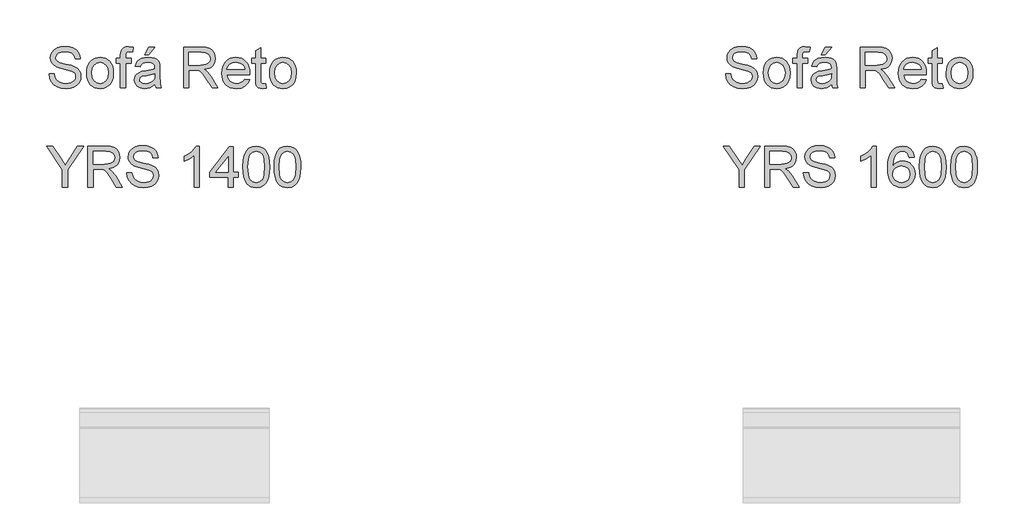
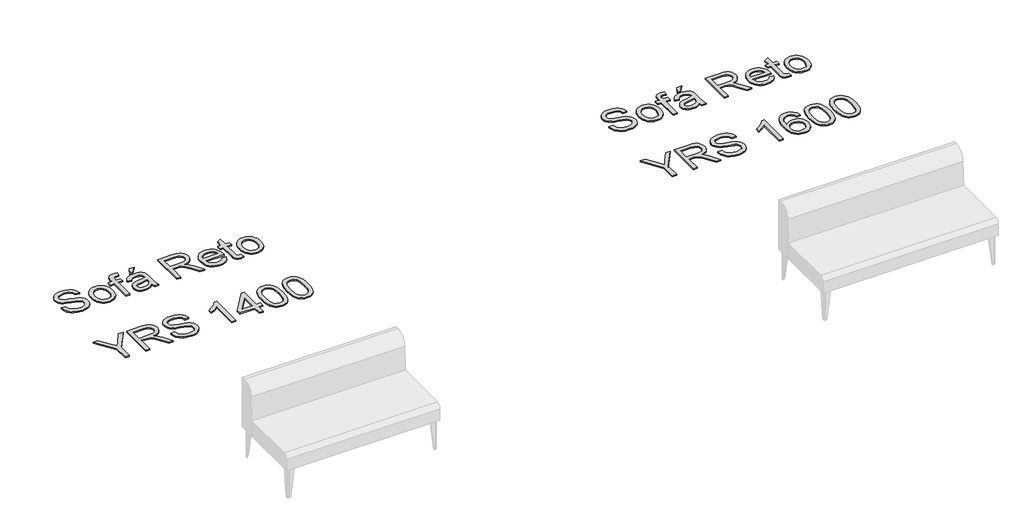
# One storey, part 15 of 26: 2 proxies.
"""IFC4 building model written with IfcOpenShell, lengths in millimetres."""

from ifc_helpers import new_model, si_unit, origin, origin_with_axes, place, context, project, spatial, polyline, outline, extrude, element, save

model = new_model("IFC4")

# Units and contexts
model_context = context("Model", 3, world=origin())
ifc_project = project(units=[si_unit("LENGTHUNIT", "METRE", prefix="MILLI")], contexts=[model_context])

# Site, building, storey
site = spatial("IfcSite", under=ifc_project)
building = spatial("IfcBuilding", under=site)
storey = spatial("IfcBuildingStorey", under=building, Name="Marelli - Linha YOUNG - Planta Baixa", Elevation=0.0)

# Proxies
placement = place(None, origin())
element("IfcBuildingElementProxy", 1, Name="300mm Arial", ObjectType="300mm Arial", at=placement, inside=storey, context=model_context, shape_type="SweptSolid", body=[
    extrude(outline(polyline([(-25.7380244, 188.9537033), (11.9330919, 188.9537033), (16.2557053, 168.0488089), (24.0731977, 151.2457988), (36.2684858, 137.9100765), (53.7244865, 127.4070455), (75.0616422, 120.5920316), (98.9003955, 118.3203602), (119.8880633, 120.0402086), (138.263769, 125.1997535), (153.1537928, 133.3667338), (163.6844149, 144.1088881), (169.9476058, 156.442132), (172.0353362, 169.3823812), (170.4718377, 181.9915366), (165.7813422, 192.8900407), (156.2531986, 202.1882581), (140.1767554, 209.9965534), (85.3255499, 224.3807394), (49.3190996, 233.8996861), (26.2804897, 242.9587802), (7.527705, 255.6323149), (-5.7620321, 270.9913882), (-13.680692, 288.7049063), (-16.3202454, 308.4417753), (-13.0552927, 330.505498), (-3.2604345, 351.0792986), (12.8068116, 368.5169052), (34.8889284, 381.1720458), (61.3948261, 388.8699765), (90.7334152, 391.4359535), (122.5184196, 388.7504149), (150.3302985, 380.6937992), (173.1757704, 367.4316533), (190.0615539, 349.129524), (200.7485259, 326.9278456), (204.9975629, 301.9670522), (167.3264466, 301.9670522), (160.4102651, 324.4446421), (145.9892909, 340.6682381), (123.4565187, 350.4906874), (92.2049432, 353.7648371), (60.2176037, 350.5274756), (38.2734427, 340.8153909), (25.5815139, 326.5231754), (21.3508709, 309.5454213), (24.3491092, 295.0692648), (33.343824, 283.4257997), (54.6074033, 273.0147392), (94.8536936, 262.3829495), (136.3875708, 252.2845888), (161.5139111, 243.473815), (182.9890226, 229.8069989), (197.9710168, 212.9396094), (206.7725936, 193.0555876), (209.7064525, 170.3388744), (206.3311352, 147.1163234), (196.2051832, 125.2733299), (179.742464, 106.47456), (157.3568446, 92.3846796), (130.4370796, 83.5831028), (100.3719235, 80.6492439), (63.4641623, 83.8130291), (33.0863066, 93.3043846), (8.8888684, 109.1600986), (-9.4776403, 131.4169593), (-21.2682582, 158.5298623), (-25.7380244, 188.9537033)])), origin_with_axes(), (0.0, 0.0, 1.0), 10.0),
    extrude(outline(polyline([(252.0864583, 196.0170376), (254.1236049, 224.6796436), (260.2350445, 249.378321), (270.4207773, 270.11307), (284.6808031, 286.8838904), (299.037398, 297.6030521), (314.8839149, 305.2595961), (332.2203539, 309.8535225), (351.046715, 311.3848313), (371.8297485, 309.5201294), (390.6216207, 303.9260239), (407.4223315, 294.6025145), (422.2318811, 281.5496015), (434.3191039, 265.2087431), (442.9528345, 246.0213978), (448.1330728, 223.9875656), (449.8598189, 199.1072464), (446.8063984, 161.049854), (437.6461367, 132.0791469), (422.6457483, 110.3833062), (402.0719478, 94.1505132), (377.6353862, 84.0245612), (351.046715, 80.6492439), (329.9601789, 82.507048), (310.9935628, 88.0804602), (294.1468667, 97.3694806), (279.4200906, 110.3741091), (267.4616265, 126.8736166), (258.9198664, 146.6472739), (253.7948103, 169.6950809), (252.0864583, 196.0170376)]), holes=[polyline([(289.7575746, 196.090614), (294.1169763, 161.9971501), (307.1951812, 137.7077414), (326.8768679, 123.1672055), (351.046715, 118.3203602), (375.1061975, 123.1947967), (394.751096, 137.818106), (407.829301, 162.4294115), (412.1887026, 197.2678364), (407.8017098, 230.3680189), (394.6407314, 254.3263339), (374.9682418, 268.8668697), (351.046715, 273.713715), (326.8768679, 268.8852638), (307.1951812, 254.3999103), (294.1169763, 230.1656838), (289.7575746, 196.090614)])]), origin_with_axes(), (0.0, 0.0, 1.0), 10.0),
    extrude(outline(polyline([(501.6576038, 85.3581335), (501.6576038, 269.0048255), (468.6953771, 269.0048255), (468.6953771, 306.6759418), (501.6576038, 306.6759418), (501.6576038, 328.9695907), (505.6307294, 360.3867131), (513.2090985, 372.913095), (524.9077459, 382.8275148), (541.2784947, 389.2838438), (562.8731678, 391.4359535), (597.2333462, 387.3156751), (591.7151163, 351.9990036), (570.0100785, 353.7648371), (555.6902719, 352.2013387), (546.2816899, 347.5108432), (541.0669626, 338.5529166), (539.3287202, 324.1871247), (539.3287202, 306.6759418), (581.708726, 306.6759418), (581.708726, 269.0048255), (539.3287202, 269.0048255), (539.3287202, 85.3581335), (501.6576038, 85.3581335)])), origin_with_axes(), (0.0, 0.0, 1.0), 10.0),
    extrude(outline(polyline([(755.9376389, 113.6114707), (737.9390123, 98.178821), (719.4069568, 88.0804602), (699.9184081, 82.507048), (679.0503019, 80.6492439), (647.5688002, 85.1190102), (624.3462492, 98.5283089), (610.0264426, 118.8905773), (605.2531737, 144.2192527), (607.0557955, 159.8358434), (612.4636608, 174.0176943), (620.805385, 186.1578001), (631.4095835, 195.6491556), (657.7867226, 208.0099907), (690.3810674, 213.6753734), (728.8983123, 219.6350617), (755.7169097, 226.6248196), (755.9376389, 235.0125291), (753.3440708, 251.8247363), (745.5633666, 262.8244079), (728.1625483, 270.9913882), (703.9191248, 273.713715), (681.4783231, 271.9018962), (665.8065501, 266.4664397), (655.1195781, 256.4140642), (647.6331795, 240.7514882), (609.9620632, 245.4603778), (616.5011657, 266.0617695), (626.2592356, 282.2485773), (640.1467809, 294.6278064), (659.0743096, 303.8064622), (682.2232841, 309.490239), (708.7751671, 311.3848313), (734.2417982, 309.7109682), (754.4293227, 304.689379), (769.6504403, 297.138601), (780.2178506, 287.8771718), (787.2260026, 276.4268447), (791.7693452, 262.3093731), (793.6087552, 229.3471464), (793.6087552, 182.4789802), (795.5217416, 117.0327733), (803.0265343, 85.3581335), (765.355418, 85.3581335), (755.9376389, 113.6114707)]), holes=[polyline([(755.9376389, 188.9537033), (695.1635333, 177.4022087), (662.7531295, 171.2953675), (648.0746379, 161.3625537), (642.92429, 146.8680031), (645.7293902, 135.6659963), (654.1446908, 126.4873405), (667.9862509, 120.3621053), (687.0701294, 118.3203602), (707.3036391, 120.5736375), (725.1827041, 127.3334691), (739.6772547, 137.2938741), (749.7572214, 149.1488714), (754.2269876, 161.3625537), (755.7169097, 178.2851254), (755.9376389, 188.9537033)])]), origin_with_axes(), (0.0, 0.0, 1.0), 10.0),
    extrude(outline(polyline([(680.5954063, 330.2203895), (708.8487435, 386.7270639), (755.9376389, 386.7270639), (708.8487435, 330.2203895), (680.5954063, 330.2203895)])), origin_with_axes(), (0.0, 0.0, 1.0), 10.0),
    extrude(outline(polyline([(967.8376681, 85.3581335), (967.8376681, 386.7270639), (1097.7000124, 386.7270639), (1132.6028167, 384.6945159), (1157.9958714, 378.5968718), (1176.5555181, 367.3396828), (1190.9580982, 349.8284998), (1200.2011333, 328.114265), (1203.282145, 304.2479206), (1198.1777824, 274.5598436), (1182.8646943, 249.9485381), (1171.2649152, 239.9191552), (1156.8830284, 231.9039262), (1119.7729321, 221.9159301), (1141.1836643, 205.8026987), (1171.7178699, 167.0279364), (1221.9705504, 85.3581335), (1178.192593, 85.3581335), (1138.9763723, 147.8244962), (1110.6494587, 189.1744325), (1090.7470427, 208.7089665), (1072.8311896, 215.8826654), (1050.978999, 217.2070405), (1005.5087844, 217.2070405), (1005.5087844, 85.3581335), (967.8376681, 85.3581335)]), holes=[polyline([(1005.5087844, 254.8781568), (1089.8273377, 254.8781568), (1114.0431701, 256.2117291), (1132.832743, 260.2124458), (1146.9778057, 267.1470214), (1157.2601074, 277.2821704), (1163.5232984, 289.5418378), (1165.6110287, 302.849969), (1161.6287061, 321.2256747), (1149.6817383, 336.032925), (1129.1263319, 345.800192), (1099.3186932, 349.0559476), (1005.5087844, 349.0559476), (1005.5087844, 254.8781568)])]), origin_with_axes(), (0.0, 0.0, 1.0), 10.0),
    extrude(outline(polyline([(1419.4496054, 151.282587), (1456.3849577, 146.5736975), (1443.0768266, 118.7434245), (1421.8408384, 97.9396977), (1393.1552398, 84.9718574), (1357.4982774, 80.6492439), (1334.1239752, 82.5139458), (1313.2972557, 88.1080514), (1295.0181191, 97.4315607), (1279.2865652, 110.4844737), (1266.6360231, 126.903507), (1257.5999216, 146.3253771), (1252.1782607, 168.750084), (1250.3710404, 194.1776276), (1252.1966548, 220.4673947), (1257.673498, 243.6393619), (1266.80157, 263.6935292), (1279.5808708, 280.6298965), (1295.2710379, 294.0851805), (1313.1317088, 303.6960976), (1333.1628834, 309.4626479), (1355.3645619, 311.3848313), (1376.8511696, 309.4672464), (1396.2822368, 303.7144917), (1413.6577633, 294.1265672), (1428.9777491, 280.7034729), (1441.4834377, 263.8038938), (1450.4160724, 243.7865147), (1455.7756532, 220.6513357), (1457.5621801, 194.3983568), (1457.3414509, 184.2448138), (1288.0421567, 184.2448138), (1294.5628651, 156.0466588), (1309.7104063, 135.3165084), (1331.5717938, 122.5693973), (1358.2340414, 118.3203602), (1378.2836102, 120.2885289), (1395.1693937, 126.1930349), (1408.8913922, 136.4017603), (1419.4496054, 151.282587)]), holes=[polyline([(1288.0421567, 221.9159301), (1419.8910638, 221.9159301), (1414.7958982, 241.818346), (1404.807902, 256.0553792), (1382.8453469, 269.2991311), (1355.2174091, 273.713715), (1329.8243543, 270.1912449), (1308.8274895, 259.6238346), (1294.2317713, 243.1519182), (1288.0421567, 221.9159301)])]), origin_with_axes(), (0.0, 0.0, 1.0), 10.0),
    extrude(outline(polyline([(1575.2844186, 116.7752559), (1579.9933081, 84.2544875), (1551.8135473, 80.6492439), (1533.7321472, 82.2127424), (1520.2492721, 86.9032378), (1510.7211284, 94.1321191), (1504.5039227, 103.3107748), (1501.0826201, 119.0745183), (1499.942186, 146.0586627), (1499.942186, 269.0048255), (1471.6888487, 269.0048255), (1471.6888487, 306.6759418), (1499.942186, 306.6759418), (1499.942186, 360.4602895), (1537.6133023, 382.6067856), (1537.6133023, 306.6759418), (1575.2844186, 306.6759418), (1575.2844186, 269.0048255), (1537.6133023, 269.0048255), (1537.6133023, 147.1623087), (1539.599865, 127.7381393), (1546.0378, 120.858746), (1558.8768816, 118.3203602), (1575.2844186, 116.7752559)])), origin_with_axes(), (0.0, 0.0, 1.0), 10.0),
    extrude(outline(polyline([(1603.5377558, 196.0170376), (1605.5749023, 224.6796436), (1611.686342, 249.378321), (1621.8720747, 270.11307), (1636.1321006, 286.8838904), (1650.4886954, 297.6030521), (1666.3352124, 305.2595961), (1683.6716514, 309.8535225), (1702.4980125, 311.3848313), (1723.281046, 309.5201294), (1742.0729181, 303.9260239), (1758.873629, 294.6025145), (1773.6831786, 281.5496015), (1785.7704014, 265.2087431), (1794.4041319, 246.0213978), (1799.5843703, 223.9875656), (1801.3111164, 199.1072464), (1798.2576958, 161.049854), (1789.0974342, 132.0791469), (1774.0970458, 110.3833062), (1753.5232452, 94.1505132), (1729.0866837, 84.0245612), (1702.4980125, 80.6492439), (1681.4114764, 82.507048), (1662.4448603, 88.0804602), (1645.5981642, 97.3694806), (1630.871388, 110.3741091), (1618.9129239, 126.8736166), (1610.3711639, 146.6472739), (1605.2461078, 169.6950809), (1603.5377558, 196.0170376)]), holes=[polyline([(1641.2088721, 196.090614), (1645.5682737, 161.9971501), (1658.6464787, 137.7077414), (1678.3281654, 123.1672055), (1702.4980125, 118.3203602), (1726.557495, 123.1947967), (1746.2023935, 137.818106), (1759.2805985, 162.4294115), (1763.6400001, 197.2678364), (1759.2530073, 230.3680189), (1746.0920289, 254.3263339), (1726.4195392, 268.8668697), (1702.4980125, 273.713715), (1678.3281654, 268.8852638), (1658.6464787, 254.3999103), (1645.5682737, 230.1656838), (1641.2088721, 196.090614)])]), origin_with_axes(), (0.0, 0.0, 1.0), 10.0),
    extrude(outline(polyline([(73.1486559, -646.4907736), (73.1486559, -518.8357213), (-44.5735826, -345.1218432), (-0.1334376, -345.1218432), (62.7008072, -437.9016823), (94.8536936, -485.2113069), (127.0801564, -434.517168), (184.1018656, -345.1218432), (228.5420106, -345.1218432), (110.8197722, -518.8357213), (110.8197722, -646.4907736), (73.1486559, -646.4907736)])), origin_with_axes(), (0.0, 0.0, 1.0), 10.0),
    extrude(outline(polyline([(261.5042374, -646.4907736), (261.5042374, -345.1218432), (391.3665817, -345.1218432), (426.269386, -347.1543912), (451.6624407, -353.2520352), (470.2220874, -364.5092243), (484.6246675, -382.0204073), (493.8677026, -403.734642), (496.9487143, -427.6009865), (491.8443516, -457.2890635), (476.5312636, -481.900369), (464.9314844, -491.9297519), (450.5495977, -499.9449808), (413.4395014, -509.932977), (434.8502335, -526.0462084), (465.3844391, -564.8209707), (515.6371197, -646.4907736), (471.8591622, -646.4907736), (432.6429415, -584.0244108), (404.3160279, -542.6744746), (384.413612, -523.1399406), (366.4977588, -515.9662417), (344.6455683, -514.6418665), (299.1753537, -514.6418665), (299.1753537, -646.4907736), (261.5042374, -646.4907736)]), holes=[polyline([(299.1753537, -476.9707502), (383.493907, -476.9707502), (407.7097393, -475.637178), (426.4993122, -471.6364613), (440.6443749, -464.7018857), (450.9266767, -454.5667367), (457.1898677, -442.3070692), (459.277598, -428.9989381), (455.2952754, -410.6232324), (443.3483076, -395.8159821), (422.7929011, -386.0487151), (392.9852625, -382.7929595), (299.1753537, -382.7929595), (299.1753537, -476.9707502)])]), origin_with_axes(), (0.0, 0.0, 1.0), 10.0),
    extrude(outline(polyline([(548.7464992, -542.8952038), (586.4176155, -542.8952038), (590.740229, -563.8000981), (598.5577214, -580.6031083), (610.7530095, -593.9388306), (628.2090102, -604.4418616), (649.5461659, -611.2568755), (673.3849192, -613.5285468), (694.372587, -611.8086985), (712.7482927, -606.6491535), (727.6383164, -598.4821732), (738.1689385, -587.740019), (744.4321295, -575.4067751), (746.5198598, -562.4665259), (744.9563614, -549.8573705), (740.2658659, -538.9588664), (730.7377222, -529.660649), (714.6612791, -521.8523536), (659.8100736, -507.4681676), (623.8036233, -497.949221), (600.7650133, -488.8901269), (582.0122286, -476.2165921), (568.7224916, -460.8575188), (560.8038316, -443.1440008), (558.1642783, -423.4071317), (561.429231, -401.3434091), (571.2240891, -380.7696085), (587.2913353, -363.3320019), (609.373452, -350.6768613), (635.8793498, -342.9789305), (665.2179389, -340.4129536), (697.0029433, -343.0984922), (724.8148221, -351.1551079), (747.660294, -364.4172538), (764.5460776, -382.7193831), (775.2330496, -404.9210615), (779.4820866, -429.8818548), (741.8109703, -429.8818548), (734.8947888, -407.4042649), (720.4738146, -391.180669), (697.9410424, -381.3582197), (666.6894669, -378.0840699), (634.7021274, -381.3214315), (612.7579664, -391.0335162), (600.0660376, -405.3257317), (595.8353946, -422.3034857), (598.8336329, -436.7796423), (607.8283477, -448.4231074), (629.091927, -458.8341679), (669.3382172, -469.4659575), (710.8720945, -479.5643183), (735.9984348, -488.3750921), (757.4735462, -502.0419082), (772.4555405, -518.9092977), (781.2571172, -538.7933195), (784.1909761, -561.5100327), (780.8156588, -584.7325837), (770.6897069, -606.5755771), (754.2269876, -625.3743471), (731.8413682, -639.4642275), (704.9216032, -648.2658042), (674.8564472, -651.1996631), (637.948686, -648.035878), (607.5708303, -638.5445225), (583.373392, -622.6888085), (565.0068834, -600.4319478), (553.2162655, -573.3190448), (548.7464992, -542.8952038)])), origin_with_axes(), (0.0, 0.0, 1.0), 10.0),
    extrude(outline(polyline([(1085.5599066, -646.4907736), (1047.8887903, -646.4907736), (1047.8887903, -411.6349079), (1012.2042368, -437.0555537), (972.5465577, -456.0750529), (972.5465577, -420.4640758), (1002.1334671, -404.3692385), (1027.7656451, -385.2209806), (1047.9715637, -364.8587122), (1061.2796949, -345.1218432), (1085.5599066, -345.1218432), (1085.5599066, -646.4907736)])), origin_with_axes(), (0.0, 0.0, 1.0), 10.0),
    extrude(outline(polyline([(1297.4599358, -646.4907736), (1297.4599358, -575.8574305), (1160.9021392, -575.8574305), (1160.9021392, -538.1863142), (1306.8777149, -349.8307327), (1335.1310521, -349.8307327), (1335.1310521, -538.1863142), (1372.8021684, -538.1863142), (1372.8021684, -575.8574305), (1335.1310521, -575.8574305), (1335.1310521, -646.4907736), (1297.4599358, -646.4907736)]), holes=[polyline([(1297.4599358, -538.1863142), (1297.4599358, -421.7884509), (1207.2552706, -538.1863142), (1297.4599358, -538.1863142)])]), origin_with_axes(), (0.0, 0.0, 1.0), 10.0),
    extrude(outline(polyline([(1405.7643952, -498.2343295), (1408.5327072, -449.9958029), (1416.8376432, -411.5245433), (1430.5964299, -382.2319394), (1449.7262936, -361.5293801), (1474.3651902, -349.2237274), (1504.6510755, -345.1218432), (1527.8644294, -347.5498643), (1548.6497621, -354.8339278), (1566.0321864, -366.6889251), (1579.0368149, -382.8297477), (1588.8592642, -403.1184397), (1596.6951507, -427.4170455), (1601.8271045, -458.2731478), (1603.5377558, -498.2343295), (1600.7970349, -546.1969447), (1592.5748723, -584.5762338), (1578.8988592, -613.8964288), (1559.7965866, -634.6817616), (1535.1025076, -647.0701877), (1504.6510755, -651.1996631), (1483.902531, -649.4062384), (1465.5084312, -644.0259642), (1449.4687762, -635.0588406), (1435.783566, -622.5048675), (1422.6501788, -599.8111469), (1413.2691879, -571.5348171), (1407.6405934, -537.675878), (1405.7643952, -498.2343295)]), holes=[polyline([(1443.4355115, -498.1607531), (1447.8500954, -557.4173455), (1453.3683254, -577.6853442), (1461.0938473, -591.7131445), (1480.8123222, -608.0746963), (1504.6510755, -613.5285468), (1528.4898288, -608.0563022), (1548.2083037, -591.6395681), (1555.9338256, -577.5887752), (1561.4520555, -557.325375), (1565.8666395, -498.1607531), (1561.5992083, -440.237733), (1556.2649194, -420.0364129), (1548.7969149, -405.6752196), (1529.1152282, -388.5135245), (1504.2096171, -382.7929595), (1480.6283812, -387.8329428), (1461.6824585, -402.9528928), (1453.6994192, -418.5878776), (1447.9972482, -439.6675159), (1443.4355115, -498.1607531)])]), origin_with_axes(), (0.0, 0.0, 1.0), 10.0),
    extrude(outline(polyline([(1636.4999826, -498.2343295), (1639.2682946, -449.9958029), (1647.5732306, -411.5245433), (1661.3320172, -382.2319394), (1680.461881, -361.5293801), (1705.1007776, -349.2237274), (1735.3866629, -345.1218432), (1758.6000168, -347.5498643), (1779.3853495, -354.8339278), (1796.7677738, -366.6889251), (1809.7724023, -382.8297477), (1819.5948516, -403.1184397), (1827.4307381, -427.4170455), (1832.5626919, -458.2731478), (1834.2733432, -498.2343295), (1831.5326223, -546.1969447), (1823.3104597, -584.5762338), (1809.6344465, -613.8964288), (1790.5321739, -634.6817616), (1765.838095, -647.0701877), (1735.3866629, -651.1996631), (1714.6381183, -649.4062384), (1696.2440186, -644.0259642), (1680.2043636, -635.0588406), (1666.5191534, -622.5048675), (1653.3857661, -599.8111469), (1644.0047753, -571.5348171), (1638.3761807, -537.675878), (1636.4999826, -498.2343295)]), holes=[polyline([(1674.1710989, -498.1607531), (1678.5856828, -557.4173455), (1684.1039127, -577.6853442), (1691.8294346, -591.7131445), (1711.5479096, -608.0746963), (1735.3866629, -613.5285468), (1759.2254162, -608.0563022), (1778.9438911, -591.6395681), (1786.669413, -577.5887752), (1792.1876429, -557.325375), (1796.6022269, -498.1607531), (1792.3347957, -440.237733), (1787.0005068, -420.0364129), (1779.5325023, -405.6752196), (1759.8508155, -388.5135245), (1734.9452045, -382.7929595), (1711.3639686, -387.8329428), (1692.4180458, -402.9528928), (1684.4350065, -418.5878776), (1678.7328356, -439.6675159), (1674.1710989, -498.1607531)])]), origin_with_axes(), (0.0, 0.0, 1.0), 10.0),
])
element("IfcBuildingElementProxy", 2, Name="300mm Arial", ObjectType="300mm Arial", at=placement, inside=storey, context=model_context, shape_type="SweptSolid", body=[
    extrude(outline(polyline([(4974.2619756, 188.9537033), (5011.9330919, 188.9537033), (5016.2557053, 168.0488089), (5024.0731977, 151.2457988), (5036.2684858, 137.9100765), (5053.7244865, 127.4070455), (5075.0616422, 120.5920316), (5098.9003955, 118.3203602), (5119.8880634, 120.0402086), (5138.263769, 125.1997535), (5153.1537928, 133.3667338), (5163.6844149, 144.1088881), (5169.9476058, 156.442132), (5172.0353362, 169.3823812), (5170.4718377, 181.9915366), (5165.7813422, 192.8900407), (5156.2531986, 202.1882581), (5140.1767554, 209.9965534), (5085.3255499, 224.3807394), (5049.3190996, 233.8996861), (5026.2804897, 242.9587802), (5007.527705, 255.6323149), (4994.2379679, 270.9913882), (4986.319308, 288.7049063), (4983.6797546, 308.4417753), (4986.9447073, 330.505498), (4996.7395655, 351.0792986), (5012.8068116, 368.5169052), (5034.8889284, 381.1720458), (5061.3948261, 388.8699765), (5090.7334152, 391.4359535), (5122.5184196, 388.7504149), (5150.3302985, 380.6937992), (5173.1757704, 367.4316533), (5190.0615539, 349.129524), (5200.7485259, 326.9278456), (5204.9975629, 301.9670522), (5167.3264466, 301.9670522), (5160.4102651, 324.4446421), (5145.9892909, 340.6682381), (5123.4565187, 350.4906874), (5092.2049432, 353.7648371), (5060.2176037, 350.5274756), (5038.2734427, 340.8153909), (5025.5815139, 326.5231754), (5021.3508709, 309.5454213), (5024.3491092, 295.0692648), (5033.343824, 283.4257997), (5054.6074033, 273.0147392), (5094.8536936, 262.3829495), (5136.3875708, 252.2845888), (5161.5139111, 243.473815), (5182.9890226, 229.8069989), (5197.9710168, 212.9396094), (5206.7725936, 193.0555876), (5209.7064525, 170.3388744), (5206.3311352, 147.1163234), (5196.2051832, 125.2733299), (5179.742464, 106.47456), (5157.3568446, 92.3846796), (5130.4370796, 83.5831028), (5100.3719235, 80.6492439), (5063.4641623, 83.8130291), (5033.0863066, 93.3043846), (5008.8888684, 109.1600986), (4990.5223597, 131.4169593), (4978.7317418, 158.5298623), (4974.2619756, 188.9537033)])), origin_with_axes(), (0.0, 0.0, 1.0), 10.0),
    extrude(outline(polyline([(5252.0864583, 196.0170376), (5254.1236049, 224.6796436), (5260.2350445, 249.378321), (5270.4207773, 270.11307), (5284.6808031, 286.8838904), (5299.037398, 297.6030521), (5314.8839149, 305.2595961), (5332.2203539, 309.8535225), (5351.046715, 311.3848313), (5371.8297485, 309.5201294), (5390.6216207, 303.9260239), (5407.4223315, 294.6025145), (5422.2318811, 281.5496015), (5434.3191039, 265.2087431), (5442.9528345, 246.0213978), (5448.1330728, 223.9875656), (5449.8598189, 199.1072464), (5446.8063984, 161.049854), (5437.6461367, 132.0791469), (5422.6457483, 110.3833062), (5402.0719478, 94.1505132), (5377.6353862, 84.0245612), (5351.046715, 80.6492439), (5329.9601789, 82.507048), (5310.9935628, 88.0804602), (5294.1468667, 97.3694806), (5279.4200906, 110.3741091), (5267.4616265, 126.8736166), (5258.9198664, 146.6472739), (5253.7948103, 169.6950809), (5252.0864583, 196.0170376)]), holes=[polyline([(5289.7575746, 196.090614), (5294.1169763, 161.9971501), (5307.1951812, 137.7077414), (5326.8768679, 123.1672055), (5351.046715, 118.3203602), (5375.1061975, 123.1947967), (5394.751096, 137.818106), (5407.829301, 162.4294115), (5412.1887026, 197.2678364), (5407.8017098, 230.3680189), (5394.6407314, 254.3263339), (5374.9682418, 268.8668697), (5351.046715, 273.713715), (5326.8768679, 268.8852638), (5307.1951812, 254.3999103), (5294.1169763, 230.1656838), (5289.7575746, 196.090614)])]), origin_with_axes(), (0.0, 0.0, 1.0), 10.0),
    extrude(outline(polyline([(5501.6576038, 85.3581335), (5501.6576038, 269.0048255), (5468.6953771, 269.0048255), (5468.6953771, 306.6759418), (5501.6576038, 306.6759418), (5501.6576038, 328.9695907), (5505.6307294, 360.3867131), (5513.2090985, 372.913095), (5524.9077459, 382.8275148), (5541.2784947, 389.2838438), (5562.8731678, 391.4359535), (5597.2333462, 387.3156751), (5591.7151163, 351.9990036), (5570.0100785, 353.7648371), (5555.6902719, 352.2013387), (5546.2816899, 347.5108432), (5541.0669626, 338.5529166), (5539.3287202, 324.1871247), (5539.3287202, 306.6759418), (5581.708726, 306.6759418), (5581.708726, 269.0048255), (5539.3287202, 269.0048255), (5539.3287202, 85.3581335), (5501.6576038, 85.3581335)])), origin_with_axes(), (0.0, 0.0, 1.0), 10.0),
    extrude(outline(polyline([(5755.9376389, 113.6114707), (5737.9390123, 98.178821), (5719.4069568, 88.0804602), (5699.9184081, 82.507048), (5679.0503019, 80.6492439), (5647.5688002, 85.1190102), (5624.3462492, 98.5283089), (5610.0264426, 118.8905773), (5605.2531737, 144.2192527), (5607.0557955, 159.8358434), (5612.4636608, 174.0176943), (5620.805385, 186.1578001), (5631.4095835, 195.6491556), (5657.7867226, 208.0099907), (5690.3810674, 213.6753734), (5728.8983123, 219.6350617), (5755.7169097, 226.6248196), (5755.9376389, 235.0125291), (5753.3440708, 251.8247363), (5745.5633666, 262.8244079), (5728.1625483, 270.9913882), (5703.9191248, 273.713715), (5681.4783231, 271.9018962), (5665.8065501, 266.4664397), (5655.1195781, 256.4140642), (5647.6331795, 240.7514882), (5609.9620632, 245.4603778), (5616.5011657, 266.0617695), (5626.2592356, 282.2485773), (5640.1467809, 294.6278064), (5659.0743096, 303.8064622), (5682.2232841, 309.490239), (5708.7751671, 311.3848313), (5734.2417982, 309.7109682), (5754.4293227, 304.689379), (5769.6504403, 297.138601), (5780.2178506, 287.8771718), (5787.2260026, 276.4268447), (5791.7693452, 262.3093731), (5793.6087552, 229.3471464), (5793.6087552, 182.4789802), (5795.5217416, 117.0327733), (5803.0265343, 85.3581335), (5765.355418, 85.3581335), (5755.9376389, 113.6114707)]), holes=[polyline([(5755.9376389, 188.9537033), (5695.1635333, 177.4022087), (5662.7531295, 171.2953675), (5648.0746379, 161.3625537), (5642.92429, 146.8680031), (5645.7293902, 135.6659963), (5654.1446908, 126.4873405), (5667.9862509, 120.3621053), (5687.0701294, 118.3203602), (5707.3036391, 120.5736375), (5725.1827041, 127.3334691), (5739.6772547, 137.2938741), (5749.7572214, 149.1488714), (5754.2269876, 161.3625537), (5755.7169097, 178.2851254), (5755.9376389, 188.9537033)])]), origin_with_axes(), (0.0, 0.0, 1.0), 10.0),
    extrude(outline(polyline([(5680.5954063, 330.2203895), (5708.8487435, 386.7270639), (5755.9376389, 386.7270639), (5708.8487435, 330.2203895), (5680.5954063, 330.2203895)])), origin_with_axes(), (0.0, 0.0, 1.0), 10.0),
    extrude(outline(polyline([(5967.8376681, 85.3581335), (5967.8376681, 386.7270639), (6097.7000124, 386.7270639), (6132.6028167, 384.6945159), (6157.9958714, 378.5968718), (6176.5555181, 367.3396828), (6190.9580982, 349.8284998), (6200.2011333, 328.114265), (6203.282145, 304.2479206), (6198.1777824, 274.5598436), (6182.8646943, 249.9485381), (6171.2649152, 239.9191552), (6156.8830284, 231.9039262), (6119.7729321, 221.9159301), (6141.1836643, 205.8026987), (6171.7178699, 167.0279364), (6221.9705504, 85.3581335), (6178.192593, 85.3581335), (6138.9763723, 147.8244962), (6110.6494587, 189.1744325), (6090.7470427, 208.7089665), (6072.8311896, 215.8826654), (6050.978999, 217.2070405), (6005.5087844, 217.2070405), (6005.5087844, 85.3581335), (5967.8376681, 85.3581335)]), holes=[polyline([(6005.5087844, 254.8781568), (6089.8273377, 254.8781568), (6114.0431701, 256.2117291), (6132.832743, 260.2124458), (6146.9778057, 267.1470214), (6157.2601074, 277.2821704), (6163.5232984, 289.5418378), (6165.6110287, 302.849969), (6161.6287061, 321.2256747), (6149.6817383, 336.032925), (6129.1263319, 345.800192), (6099.3186932, 349.0559476), (6005.5087844, 349.0559476), (6005.5087844, 254.8781568)])]), origin_with_axes(), (0.0, 0.0, 1.0), 10.0),
    extrude(outline(polyline([(6419.4496054, 151.282587), (6456.3849577, 146.5736975), (6443.0768266, 118.7434245), (6421.8408384, 97.9396977), (6393.1552398, 84.9718574), (6357.4982774, 80.6492439), (6334.1239752, 82.5139458), (6313.2972557, 88.1080514), (6295.0181191, 97.4315607), (6279.2865652, 110.4844737), (6266.6360231, 126.903507), (6257.5999216, 146.3253771), (6252.1782607, 168.750084), (6250.3710404, 194.1776276), (6252.1966548, 220.4673947), (6257.673498, 243.6393619), (6266.80157, 263.6935292), (6279.5808708, 280.6298965), (6295.2710379, 294.0851805), (6313.1317088, 303.6960976), (6333.1628834, 309.4626479), (6355.3645619, 311.3848313), (6376.8511696, 309.4672464), (6396.2822368, 303.7144917), (6413.6577633, 294.1265672), (6428.9777491, 280.7034729), (6441.4834377, 263.8038938), (6450.4160724, 243.7865147), (6455.7756532, 220.6513357), (6457.5621801, 194.3983568), (6457.3414509, 184.2448138), (6288.0421567, 184.2448138), (6294.5628651, 156.0466588), (6309.7104063, 135.3165084), (6331.5717938, 122.5693973), (6358.2340414, 118.3203602), (6378.2836102, 120.2885289), (6395.1693937, 126.1930349), (6408.8913922, 136.4017603), (6419.4496054, 151.282587)]), holes=[polyline([(6288.0421567, 221.9159301), (6419.8910638, 221.9159301), (6414.7958982, 241.818346), (6404.807902, 256.0553792), (6382.8453469, 269.2991311), (6355.2174091, 273.713715), (6329.8243543, 270.1912449), (6308.8274895, 259.6238346), (6294.2317713, 243.1519182), (6288.0421567, 221.9159301)])]), origin_with_axes(), (0.0, 0.0, 1.0), 10.0),
    extrude(outline(polyline([(6575.2844186, 116.7752559), (6579.9933081, 84.2544875), (6551.8135473, 80.6492439), (6533.7321472, 82.2127424), (6520.2492721, 86.9032378), (6510.7211284, 94.1321191), (6504.5039227, 103.3107748), (6501.0826201, 119.0745183), (6499.942186, 146.0586627), (6499.942186, 269.0048255), (6471.6888487, 269.0048255), (6471.6888487, 306.6759418), (6499.942186, 306.6759418), (6499.942186, 360.4602895), (6537.6133023, 382.6067856), (6537.6133023, 306.6759418), (6575.2844186, 306.6759418), (6575.2844186, 269.0048255), (6537.6133023, 269.0048255), (6537.6133023, 147.1623087), (6539.599865, 127.7381393), (6546.0378, 120.858746), (6558.8768816, 118.3203602), (6575.2844186, 116.7752559)])), origin_with_axes(), (0.0, 0.0, 1.0), 10.0),
    extrude(outline(polyline([(6603.5377558, 196.0170376), (6605.5749023, 224.6796436), (6611.686342, 249.378321), (6621.8720747, 270.11307), (6636.1321006, 286.8838904), (6650.4886954, 297.6030521), (6666.3352124, 305.2595961), (6683.6716514, 309.8535225), (6702.4980125, 311.3848313), (6723.281046, 309.5201294), (6742.0729181, 303.9260239), (6758.873629, 294.6025145), (6773.6831786, 281.5496015), (6785.7704014, 265.2087431), (6794.4041319, 246.0213978), (6799.5843703, 223.9875656), (6801.3111164, 199.1072464), (6798.2576958, 161.049854), (6789.0974342, 132.0791469), (6774.0970458, 110.3833062), (6753.5232452, 94.1505132), (6729.0866837, 84.0245612), (6702.4980125, 80.6492439), (6681.4114764, 82.507048), (6662.4448603, 88.0804602), (6645.5981642, 97.3694806), (6630.871388, 110.3741091), (6618.9129239, 126.8736166), (6610.3711639, 146.6472739), (6605.2461078, 169.6950809), (6603.5377558, 196.0170376)]), holes=[polyline([(6641.2088721, 196.090614), (6645.5682737, 161.9971501), (6658.6464787, 137.7077414), (6678.3281654, 123.1672055), (6702.4980125, 118.3203602), (6726.557495, 123.1947967), (6746.2023935, 137.818106), (6759.2805985, 162.4294115), (6763.6400001, 197.2678364), (6759.2530073, 230.3680189), (6746.0920289, 254.3263339), (6726.4195392, 268.8668697), (6702.4980125, 273.713715), (6678.3281654, 268.8852638), (6658.6464787, 254.3999103), (6645.5682737, 230.1656838), (6641.2088721, 196.090614)])]), origin_with_axes(), (0.0, 0.0, 1.0), 10.0),
    extrude(outline(polyline([(5073.1486559, -646.4907736), (5073.1486559, -518.8357213), (4955.4264174, -345.1218432), (4999.8665624, -345.1218432), (5062.7008072, -437.9016823), (5094.8536936, -485.2113069), (5127.0801564, -434.517168), (5184.1018656, -345.1218432), (5228.5420106, -345.1218432), (5110.8197722, -518.8357213), (5110.8197722, -646.4907736), (5073.1486559, -646.4907736)])), origin_with_axes(), (0.0, 0.0, 1.0), 10.0),
    extrude(outline(polyline([(5261.5042374, -646.4907736), (5261.5042374, -345.1218432), (5391.3665817, -345.1218432), (5426.269386, -347.1543912), (5451.6624407, -353.2520352), (5470.2220874, -364.5092243), (5484.6246675, -382.0204073), (5493.8677026, -403.734642), (5496.9487143, -427.6009865), (5491.8443516, -457.2890635), (5476.5312636, -481.900369), (5464.9314844, -491.9297519), (5450.5495977, -499.9449808), (5413.4395014, -509.932977), (5434.8502335, -526.0462084), (5465.3844391, -564.8209707), (5515.6371197, -646.4907736), (5471.8591622, -646.4907736), (5432.6429415, -584.0244108), (5404.3160279, -542.6744746), (5384.413612, -523.1399406), (5366.4977588, -515.9662417), (5344.6455683, -514.6418665), (5299.1753537, -514.6418665), (5299.1753537, -646.4907736), (5261.5042374, -646.4907736)]), holes=[polyline([(5299.1753537, -476.9707502), (5383.493907, -476.9707502), (5407.7097393, -475.637178), (5426.4993122, -471.6364613), (5440.6443749, -464.7018857), (5450.9266767, -454.5667367), (5457.1898677, -442.3070692), (5459.277598, -428.9989381), (5455.2952754, -410.6232324), (5443.3483076, -395.8159821), (5422.7929011, -386.0487151), (5392.9852625, -382.7929595), (5299.1753537, -382.7929595), (5299.1753537, -476.9707502)])]), origin_with_axes(), (0.0, 0.0, 1.0), 10.0),
    extrude(outline(polyline([(5548.7464992, -542.8952038), (5586.4176155, -542.8952038), (5590.740229, -563.8000981), (5598.5577214, -580.6031083), (5610.7530095, -593.9388306), (5628.2090102, -604.4418616), (5649.5461659, -611.2568755), (5673.3849192, -613.5285468), (5694.372587, -611.8086985), (5712.7482927, -606.6491535), (5727.6383164, -598.4821732), (5738.1689385, -587.740019), (5744.4321295, -575.4067751), (5746.5198598, -562.4665259), (5744.9563614, -549.8573705), (5740.2658659, -538.9588664), (5730.7377222, -529.660649), (5714.6612791, -521.8523536), (5659.8100736, -507.4681676), (5623.8036233, -497.949221), (5600.7650133, -488.8901269), (5582.0122286, -476.2165921), (5568.7224916, -460.8575188), (5560.8038316, -443.1440008), (5558.1642783, -423.4071317), (5561.429231, -401.3434091), (5571.2240891, -380.7696085), (5587.2913353, -363.3320019), (5609.373452, -350.6768613), (5635.8793498, -342.9789305), (5665.2179389, -340.4129536), (5697.0029433, -343.0984922), (5724.8148221, -351.1551079), (5747.660294, -364.4172538), (5764.5460776, -382.7193831), (5775.2330496, -404.9210615), (5779.4820866, -429.8818548), (5741.8109703, -429.8818548), (5734.8947888, -407.4042649), (5720.4738146, -391.180669), (5697.9410424, -381.3582197), (5666.6894669, -378.0840699), (5634.7021274, -381.3214315), (5612.7579664, -391.0335162), (5600.0660376, -405.3257317), (5595.8353946, -422.3034857), (5598.8336329, -436.7796423), (5607.8283477, -448.4231074), (5629.091927, -458.8341679), (5669.3382172, -469.4659575), (5710.8720945, -479.5643183), (5735.9984348, -488.3750921), (5757.4735462, -502.0419082), (5772.4555405, -518.9092977), (5781.2571172, -538.7933195), (5784.1909761, -561.5100327), (5780.8156588, -584.7325837), (5770.6897069, -606.5755771), (5754.2269876, -625.3743471), (5731.8413682, -639.4642275), (5704.9216032, -648.2658042), (5674.8564472, -651.1996631), (5637.948686, -648.035878), (5607.5708303, -638.5445225), (5583.373392, -622.6888085), (5565.0068834, -600.4319478), (5553.2162655, -573.3190448), (5548.7464992, -542.8952038)])), origin_with_axes(), (0.0, 0.0, 1.0), 10.0),
    extrude(outline(polyline([(6085.5599066, -646.4907736), (6047.8887903, -646.4907736), (6047.8887903, -411.6349079), (6012.2042368, -437.0555537), (5972.5465577, -456.0750529), (5972.5465577, -420.4640758), (6002.1334671, -404.3692385), (6027.7656451, -385.2209806), (6047.9715637, -364.8587122), (6061.2796949, -345.1218432), (6085.5599066, -345.1218432), (6085.5599066, -646.4907736)])), origin_with_axes(), (0.0, 0.0, 1.0), 10.0),
    extrude(outline(polyline([(6368.0932789, -425.1729653), (6330.4221626, -429.8818548), (6324.3521097, -411.2118436), (6316.1483412, -398.4647325), (6299.0602225, -386.7109027), (6278.4036485, -382.7929595), (6260.8924655, -385.0738278), (6244.4113521, -391.9164329), (6230.2570923, -406.3282101), (6218.6964006, -426.1662467), (6210.8881053, -454.2264459), (6207.9910346, -493.3047108), (6223.1017875, -475.6739662), (6241.2107787, -463.2487518), (6261.3063327, -455.8819149), (6282.376774, -453.4263025), (6300.4765682, -455.1047641), (6317.1784108, -460.1401489), (6332.4823018, -468.532457), (6346.3882412, -480.2816882), (6357.9443343, -494.6888668), (6366.1986866, -511.0550171), (6371.151298, -529.380139), (6372.8021684, -549.6642325), (6369.6935656, -576.6391798), (6360.367757, -601.6459584), (6345.5972949, -622.8543554), (6326.1547314, -638.4341579), (6302.9229834, -648.0082868), (6276.7849677, -651.1996631), (6254.3280711, -649.0843417), (6234.0462769, -642.7383773), (6215.9395849, -632.1617699), (6200.0079953, -617.3545196), (6187.0194616, -597.6912269), (6177.7419375, -572.5464926), (6172.1754231, -541.9203165), (6170.3199183, -505.8126986), (6172.3800575, -465.3318836), (6178.560475, -430.7831657), (6188.8611708, -402.166545), (6203.282145, -379.4820215), (6218.9125313, -364.4494435), (6237.0353181, -353.7118877), (6257.6505054, -347.2693543), (6280.7580932, -345.1218432), (6313.8122905, -350.437738), (6340.2814, -366.3854225), (6358.8226526, -391.7140978), (6368.0932789, -425.1729653)]), holes=[polyline([(6207.9910346, -549.0756213), (6210.1707354, -565.7682668), (6216.7098379, -581.7067543), (6226.8633809, -595.4103586), (6239.8864036, -605.3983547), (6255.6041618, -611.4959988), (6273.8419117, -613.5285468), (6298.7015375, -609.316298), (6318.2452685, -596.6795515), (6330.9096062, -576.8139237), (6335.1310521, -550.9150313), (6330.9647885, -526.0554054), (6318.4659977, -507.1002856), (6298.5911729, -495.0981355), (6272.2968073, -491.0974188), (6247.4739697, -495.0981355), (6226.7162281, -507.1002856), (6212.672333, -525.5955529), (6207.9910346, -549.0756213)])]), origin_with_axes(), (0.0, 0.0, 1.0), 10.0),
    extrude(outline(polyline([(6405.7643952, -498.2343295), (6408.5327072, -449.9958029), (6416.8376432, -411.5245433), (6430.5964299, -382.2319394), (6449.7262936, -361.5293801), (6474.3651902, -349.2237274), (6504.6510755, -345.1218432), (6527.8644294, -347.5498643), (6548.6497621, -354.8339278), (6566.0321864, -366.6889251), (6579.0368149, -382.8297477), (6588.8592642, -403.1184397), (6596.6951507, -427.4170455), (6601.8271045, -458.2731478), (6603.5377558, -498.2343295), (6600.7970349, -546.1969447), (6592.5748723, -584.5762338), (6578.8988592, -613.8964288), (6559.7965866, -634.6817616), (6535.1025076, -647.0701877), (6504.6510755, -651.1996631), (6483.902531, -649.4062384), (6465.5084312, -644.0259642), (6449.4687762, -635.0588406), (6435.783566, -622.5048675), (6422.6501788, -599.8111469), (6413.2691879, -571.5348171), (6407.6405934, -537.675878), (6405.7643952, -498.2343295)]), holes=[polyline([(6443.4355115, -498.1607531), (6447.8500954, -557.4173455), (6453.3683254, -577.6853442), (6461.0938473, -591.7131445), (6480.8123222, -608.0746963), (6504.6510755, -613.5285468), (6528.4898288, -608.0563022), (6548.2083037, -591.6395681), (6555.9338256, -577.5887752), (6561.4520556, -557.325375), (6565.8666395, -498.1607531), (6561.5992083, -440.237733), (6556.2649194, -420.0364129), (6548.7969149, -405.6752196), (6529.1152282, -388.5135245), (6504.2096171, -382.7929595), (6480.6283812, -387.8329428), (6461.6824585, -402.9528928), (6453.6994192, -418.5878776), (6447.9972482, -439.6675159), (6443.4355115, -498.1607531)])]), origin_with_axes(), (0.0, 0.0, 1.0), 10.0),
    extrude(outline(polyline([(6636.4999826, -498.2343295), (6639.2682946, -449.9958029), (6647.5732306, -411.5245433), (6661.3320172, -382.2319394), (6680.461881, -361.5293801), (6705.1007776, -349.2237274), (6735.3866629, -345.1218432), (6758.6000168, -347.5498643), (6779.3853495, -354.8339278), (6796.7677738, -366.6889251), (6809.7724023, -382.8297477), (6819.5948516, -403.1184397), (6827.4307381, -427.4170455), (6832.5626919, -458.2731478), (6834.2733432, -498.2343295), (6831.5326223, -546.1969447), (6823.3104597, -584.5762338), (6809.6344465, -613.8964288), (6790.5321739, -634.6817616), (6765.838095, -647.0701877), (6735.3866629, -651.1996631), (6714.6381183, -649.4062384), (6696.2440186, -644.0259642), (6680.2043636, -635.0588406), (6666.5191534, -622.5048675), (6653.3857661, -599.8111469), (6644.0047753, -571.5348171), (6638.3761807, -537.675878), (6636.4999826, -498.2343295)]), holes=[polyline([(6674.1710989, -498.1607531), (6678.5856828, -557.4173455), (6684.1039127, -577.6853442), (6691.8294346, -591.7131445), (6711.5479096, -608.0746963), (6735.3866629, -613.5285468), (6759.2254162, -608.0563022), (6778.9438911, -591.6395681), (6786.669413, -577.5887752), (6792.1876429, -557.325375), (6796.6022269, -498.1607531), (6792.3347957, -440.237733), (6787.0005068, -420.0364129), (6779.5325023, -405.6752196), (6759.8508155, -388.5135245), (6734.9452045, -382.7929595), (6711.3639686, -387.8329428), (6692.4180458, -402.9528928), (6684.4350065, -418.5878776), (6678.7328356, -439.6675159), (6674.1710989, -498.1607531)])]), origin_with_axes(), (0.0, 0.0, 1.0), 10.0),
])

save(model, "model.ifc")
